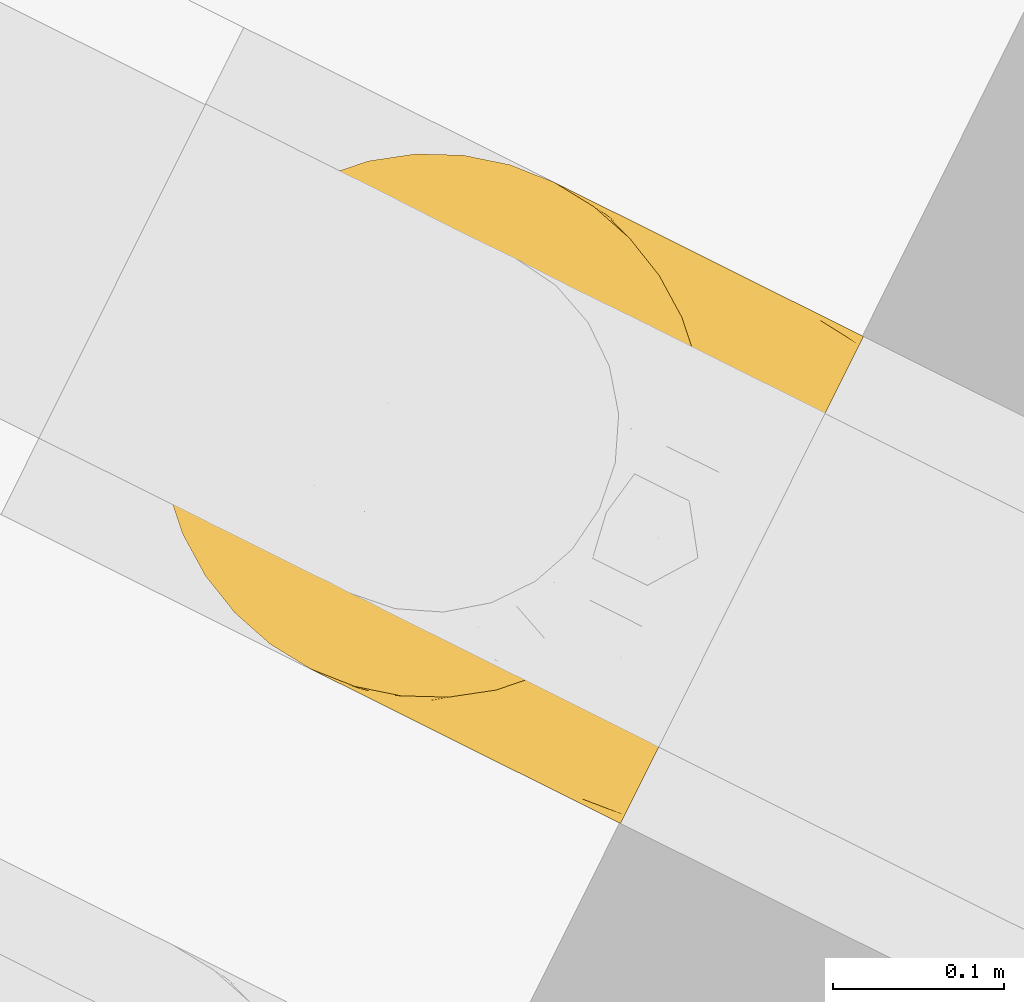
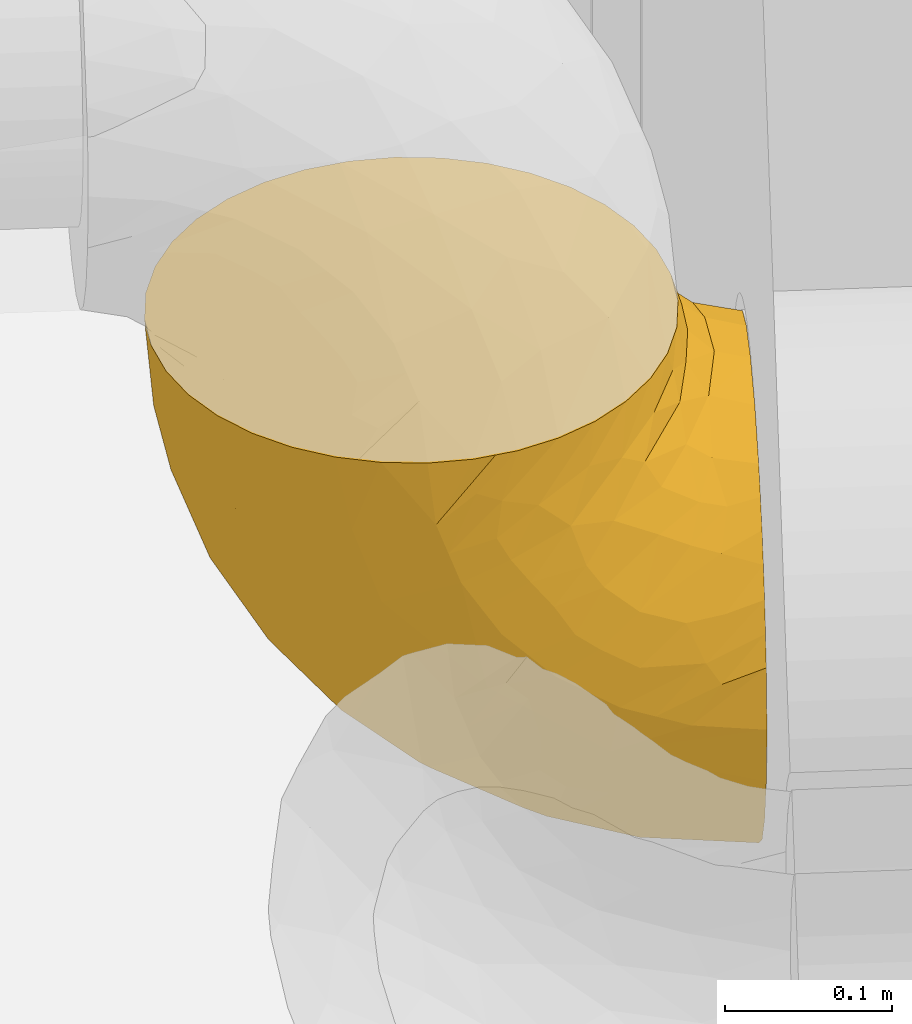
# One storey, part 46 of 91: 1 covering.
"""IFC2X3 building model written with IfcOpenShell, lengths in metres."""

from ifc_helpers import new_model, entity, si_unit, converted_unit, derived_unit, direction, frame, origin, place, context, subcontext, project, spatial, faceted_brep, element, save


model = new_model("IFC2X3")

# Units and contexts
model_context = context("Model", 3, precision=1e-05, world=origin(), true_north=direction((0.894925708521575, 0.446215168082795)))
context_of_model = context(None, 3, precision=1e-05, world=origin(), true_north=direction((0.894925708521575, 0.446215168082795)))
body_context = subcontext(model_context, "Body", "Model", "MODEL_VIEW")
ifc_project = project(units=[si_unit("LENGTHUNIT", "METRE"), si_unit("AREAUNIT", "SQUARE_METRE"), si_unit("VOLUMEUNIT", "CUBIC_METRE"), converted_unit("PLANEANGLEUNIT", "DEGREE", entity("IfcRatioMeasure", 0.0174532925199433), si_unit("PLANEANGLEUNIT", "RADIAN"), dimensions=[0, 0, 0, 0, 0, 0, 0]), si_unit("MASSUNIT", "GRAM", prefix="KILO"), si_unit("TIMEUNIT", "SECOND"), si_unit("FREQUENCYUNIT", "HERTZ"), si_unit("THERMODYNAMICTEMPERATUREUNIT", "DEGREE_CELSIUS"), derived_unit("THERMALTRANSMITTANCEUNIT", [(si_unit("MASSUNIT", "GRAM", prefix="KILO"), 1), (si_unit("THERMODYNAMICTEMPERATUREUNIT", "KELVIN"), -1), (si_unit("TIMEUNIT", "SECOND"), -3)]), derived_unit("VOLUMETRICFLOWRATEUNIT", [(si_unit("LENGTHUNIT", "METRE"), 3), (si_unit("TIMEUNIT", "SECOND"), -1)]), si_unit("ELECTRICCURRENTUNIT", "AMPERE"), si_unit("ELECTRICVOLTAGEUNIT", "VOLT"), si_unit("POWERUNIT", "WATT"), si_unit("FORCEUNIT", "NEWTON", prefix="KILO"), si_unit("ILLUMINANCEUNIT", "LUX"), si_unit("LUMINOUSFLUXUNIT", "LUMEN"), si_unit("LUMINOUSINTENSITYUNIT", "CANDELA"), si_unit("PRESSUREUNIT", "PASCAL")], contexts=[model_context, context_of_model])

# Site, building, storey
site_placement = place(None, frame((218.228324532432, 584.720189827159, 0.0), z_axis=(0.0, 0.0, 1.0), x_axis=(0.446215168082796, 0.894925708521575, 0.0)))
site = spatial("IfcSite", under=ifc_project, at=site_placement, Name="Default", CompositionType="ELEMENT")
building_placement = place(site_placement, origin())
building = spatial("IfcBuilding", under=site, at=building_placement, CompositionType="ELEMENT")
storey_placement = place(building_placement, origin())
storey = spatial("IfcBuildingStorey", under=building, at=storey_placement, Name="0 - Piano Terra", CompositionType="ELEMENT", Elevation=0.0)

# Covering
covering_placement = place(storey_placement, frame((-30.3033657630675, -5.00334083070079, 2.50885472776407)))
element("IfcCovering", 1, at=covering_placement, inside=storey, Name="Isolamento tubazione:Default", ObjectType="Isolamento tubazione:Default", PredefinedType="INSULATION", context=body_context, shape_type="Brep", body=[
    faceted_brep([(0.318271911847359, 0.232297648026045, 0.364145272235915), (0.311073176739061, 0.259164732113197, 0.364145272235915), (0.29931755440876, 0.284373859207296, 0.364145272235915), (0.283365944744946, 0.30715408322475, 0.364145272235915), (0.263703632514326, 0.326816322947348, 0.364145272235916), (0.240919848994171, 0.342769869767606, 0.364145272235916), (0.21571004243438, 0.354524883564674, 0.364145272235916), (0.188846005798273, 0.361722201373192, 0.364145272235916), (0.161145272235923, 0.364145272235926, 0.364145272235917), (0.133442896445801, 0.361721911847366, 0.364145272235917), (0.106575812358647, 0.354523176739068, 0.364145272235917), (0.0813666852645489, 0.342767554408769, 0.364145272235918), (0.0585864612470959, 0.326815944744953, 0.364145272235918), (0.0389242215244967, 0.307153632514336, 0.364145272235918), (0.0229706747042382, 0.284369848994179, 0.364145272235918), (0.0112156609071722, 0.259160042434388, 0.364145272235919), (0.00401834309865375, 0.232296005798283, 0.364145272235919), (0.00159527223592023, 0.204595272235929, 0.364145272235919), (0.00254231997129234, 0.193769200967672, 0.364145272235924), (0.0040186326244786, 0.176892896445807, 0.364145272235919), (0.00761800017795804, 0.163459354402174, 0.364145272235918), (0.0112173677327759, 0.150025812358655, 0.364145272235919), (0.0229729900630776, 0.124816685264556, 0.364145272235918), (0.0389245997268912, 0.102036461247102, 0.364145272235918), (0.058586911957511, 0.0823742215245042, 0.364145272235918), (0.0813706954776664, 0.0664206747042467, 0.364145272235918), (0.106580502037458, 0.0546656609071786, 0.364145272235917), (0.133444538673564, 0.0474683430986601, 0.364145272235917), (0.161145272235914, 0.0450452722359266, 0.364145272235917), (0.188847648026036, 0.0474686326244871, 0.364145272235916), (0.21571473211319, 0.0546673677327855, 0.364145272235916), (0.240923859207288, 0.066422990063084, 0.364145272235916), (0.263704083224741, 0.0823745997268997, 0.364145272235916), (0.28336632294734, 0.102036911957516, 0.364145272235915), (0.299319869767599, 0.124820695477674, 0.364145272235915), (0.311074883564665, 0.150030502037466, 0.364145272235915), (0.318272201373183, 0.17689453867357, 0.364145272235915), (0.319748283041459, 0.193769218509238, 0.36414527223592), (0.320695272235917, 0.204595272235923, 0.364145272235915), (0.11985069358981, 0.00159527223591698, 0.315258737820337), (0.0813702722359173, 0.00159527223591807, 0.299319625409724), (0.0648483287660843, 0.00159527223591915, 0.286641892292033), (0.0483263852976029, 0.00159527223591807, 0.27396415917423), (0.0356486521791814, 0.00159527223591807, 0.25744221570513), (0.0229709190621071, 0.00159527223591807, 0.240920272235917), (0.0150013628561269, 0.00159527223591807, 0.221680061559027), (0.00703180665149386, 0.00159527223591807, 0.202439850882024), (0.00448125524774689, 0.00159527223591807, 0.183066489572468), (0.00303826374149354, 0.00159527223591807, 0.17210588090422), (0.0015952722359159, 0.00159527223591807, 0.161145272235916), (0.00703180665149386, 0.00159527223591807, 0.119850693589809), (0.0229709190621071, 0.00159527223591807, 0.0813702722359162), (0.0483263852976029, 0.00159527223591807, 0.0483263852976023), (0.0813702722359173, 0.00159527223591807, 0.0229709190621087), (0.11985069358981, 0.00159527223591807, 0.00703180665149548), (0.161145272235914, 0.00159527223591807, 0.0015952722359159), (0.202439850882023, 0.00159527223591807, 0.00703180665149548), (0.240920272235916, 0.00159527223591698, 0.0229709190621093), (0.27396415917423, 0.00159527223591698, 0.0483263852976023), (0.299319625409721, 0.00159527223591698, 0.0813702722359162), (0.315258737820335, 0.00159527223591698, 0.119850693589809), (0.320695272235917, 0.0015952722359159, 0.161145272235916), (0.319252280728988, 0.0015952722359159, 0.172105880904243), (0.31780928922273, 0.0015952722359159, 0.183066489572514), (0.315258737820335, 0.0015952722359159, 0.202439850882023), (0.307289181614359, 0.0015952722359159, 0.221680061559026), (0.299319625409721, 0.0015952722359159, 0.240920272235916), (0.286641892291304, 0.00159527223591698, 0.257442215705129), (0.27396415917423, 0.00159527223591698, 0.27396415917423), (0.240920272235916, 0.00159527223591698, 0.299319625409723), (0.202439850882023, 0.00159527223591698, 0.315258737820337), (0.161145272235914, 0.00159527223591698, 0.320695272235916), (0.201172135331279, 0.0900951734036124, 0.0178267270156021), (0.161145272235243, 0.0645514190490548, 0.00710322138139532), (0.161145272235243, 0.125594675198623, 0.0234597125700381), (0.306467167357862, 0.173037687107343, 0.1570364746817), (0.317175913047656, 0.168703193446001, 0.197037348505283), (0.312260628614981, 0.108066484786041, 0.133329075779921), (0.320695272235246, 0.128163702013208, 0.205433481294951), (0.320695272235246, 0.108918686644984, 0.193341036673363), (0.320695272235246, 0.0896736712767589, 0.181248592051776), (0.228888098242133, 0.142688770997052, 0.0466279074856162), (0.198715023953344, 0.150576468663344, 0.038547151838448), (0.19714418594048, 0.206213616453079, 0.0698536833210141), (0.265288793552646, 0.273081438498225, 0.18754088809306), (0.279139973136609, 0.221076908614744, 0.14466362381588), (0.251711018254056, 0.234774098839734, 0.124519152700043), (0.227840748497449, 0.0599626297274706, 0.0211347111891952), (0.283559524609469, 0.0515208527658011, 0.0629270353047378), (0.309327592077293, 0.215857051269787, 0.213108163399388), (0.161145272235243, 0.182870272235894, 0.0501677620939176), (0.161145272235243, 0.234637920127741, 0.086415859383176), (0.188773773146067, 0.25625245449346, 0.109488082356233), (0.161145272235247, 0.279324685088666, 0.131102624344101), (0.320695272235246, 0.199505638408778, 0.318973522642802), (0.317175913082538, 0.218772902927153, 0.270957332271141), (0.277616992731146, 0.115600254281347, 0.073672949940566), (0.296288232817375, 0.136729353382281, 0.110033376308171), (0.304299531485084, 0.0646646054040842, 0.0980689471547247), (0.222697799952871, 0.342089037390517, 0.282272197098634), (0.198695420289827, 0.327172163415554, 0.21510627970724), (0.190673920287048, 0.350066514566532, 0.274594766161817), (0.320695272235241, 0.0467670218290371, 0.166234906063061), (0.320695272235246, 0.0239518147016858, 0.163664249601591), (0.320695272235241, 0.0127735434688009, 0.162404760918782), (0.252196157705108, 0.0737158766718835, 0.0380054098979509), (0.161145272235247, 0.342280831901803, 0.24014586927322), (0.161145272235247, 0.315572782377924, 0.182870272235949), (0.320695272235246, 0.0682203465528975, 0.173741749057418), (0.301023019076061, 0.273493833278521, 0.29833714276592), (0.219562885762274, 0.250122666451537, 0.115617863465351), (0.204386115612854, 0.292585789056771, 0.158055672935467), (0.233310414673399, 0.281138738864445, 0.161450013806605), (0.282350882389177, 0.288377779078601, 0.255263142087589), (0.268310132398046, 0.316159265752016, 0.29917824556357), (0.289509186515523, 0.251447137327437, 0.202178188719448), (0.23979758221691, 0.309557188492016, 0.215828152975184), (0.161145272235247, 0.358637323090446, 0.301189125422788), (0.320695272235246, 0.203335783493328, 0.352967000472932), (0.320695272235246, 0.202076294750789, 0.341788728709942), (0.320695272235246, 0.184491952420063, 0.27606687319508), (0.320695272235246, 0.172399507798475, 0.256821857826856), (0.320695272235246, 0.160307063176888, 0.237576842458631), (0.320695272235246, 0.19199879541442, 0.297520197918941), (0.320695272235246, 0.144235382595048, 0.221505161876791), (0.234514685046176, 0.199279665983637, 0.0817891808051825), (0.267559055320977, 0.180304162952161, 0.0964337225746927), (0.255020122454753, 0.141814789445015, 0.0631976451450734), (0.193767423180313, 0.0408292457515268, 0.338594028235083), (0.317837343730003, 0.0284627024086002, 0.193308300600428), (0.302389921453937, 0.128182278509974, 0.340390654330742), (0.315096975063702, 0.0376598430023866, 0.207127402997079), (0.29037189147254, 0.0979970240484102, 0.312375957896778), (0.268216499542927, 0.0829606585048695, 0.34056846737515), (0.272627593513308, 0.0787272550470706, 0.320022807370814), (0.315587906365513, 0.0951853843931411, 0.230747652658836), (0.313218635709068, 0.107494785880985, 0.251331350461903), (0.302643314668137, 0.080495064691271, 0.261732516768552), (0.314805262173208, 0.155605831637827, 0.320598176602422), (0.242685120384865, 0.0312638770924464, 0.305346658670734), (0.267865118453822, 0.0260038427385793, 0.283356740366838), (0.269450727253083, 0.0467246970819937, 0.291124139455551), (0.296967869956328, 0.112391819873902, 0.319955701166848), (0.310493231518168, 0.123613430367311, 0.282412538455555), (0.315769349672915, 0.148232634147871, 0.291466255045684), (0.263416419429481, 0.0620352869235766, 0.310915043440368), (0.292249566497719, 0.0904636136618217, 0.295862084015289), (0.246211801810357, 0.0646338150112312, 0.338596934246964), (0.28908278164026, 0.0541637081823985, 0.270182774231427), (0.203370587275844, 0.0263992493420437, 0.321725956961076), (0.224672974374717, 0.0462280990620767, 0.329269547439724), (0.317566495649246, 0.13311650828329, 0.253989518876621), (0.318548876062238, 0.148702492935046, 0.265864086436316), (0.213089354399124, 0.0508973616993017, 0.347170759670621), (0.317379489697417, 0.168975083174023, 0.330940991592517), (0.28622547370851, 0.0698164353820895, 0.285715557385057), (0.291795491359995, 0.0207775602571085, 0.25438796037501), (0.161145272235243, 0.03922407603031, 0.342420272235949), (0.161145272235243, 0.0233202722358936, 0.326516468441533), (0.291152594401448, 0.0360215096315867, 0.259133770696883), (0.317781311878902, 0.0724405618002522, 0.206704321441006), (0.314129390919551, 0.0762577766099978, 0.22523919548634), (0.305217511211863, 0.0687110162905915, 0.247647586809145), (0.304103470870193, 0.0261891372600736, 0.234299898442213), (0.309107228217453, 0.110544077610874, 0.27105093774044), (0.308311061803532, 0.0504309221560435, 0.231479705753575), (0.0481611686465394, 0.0854589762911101, 0.330538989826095), (0.0301900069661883, 0.0913301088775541, 0.29736352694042), (0.0185577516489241, 0.117856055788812, 0.302889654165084), (0.130051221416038, 0.0421616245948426, 0.341397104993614), (0.119520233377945, 0.0292129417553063, 0.323699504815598), (0.0579185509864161, 0.0219615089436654, 0.285393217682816), (0.0377646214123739, 0.0268437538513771, 0.265485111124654), (0.0138743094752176, 0.0982324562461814, 0.26061958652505), (0.00429194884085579, 0.116013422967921, 0.23333483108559), (0.0131660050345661, 0.0770762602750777, 0.242279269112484), (0.00537209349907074, 0.142677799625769, 0.272032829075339), (0.01509706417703, 0.10861776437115, 0.275816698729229), (0.00159527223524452, 0.17239950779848, 0.256821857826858), (0.00497002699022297, 0.154525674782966, 0.28908419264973), (0.00159527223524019, 0.0127735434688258, 0.162404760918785), (0.00159527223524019, 0.0467670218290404, 0.166234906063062), (0.00159527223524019, 0.0239518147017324, 0.163664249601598), (0.0564962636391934, 0.0387154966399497, 0.290396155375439), (0.037803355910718, 0.0449983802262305, 0.272069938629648), (0.00445320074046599, 0.0284627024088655, 0.193308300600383), (0.110600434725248, 0.0511194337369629, 0.349416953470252), (0.0781104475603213, 0.0644557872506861, 0.341663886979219), (0.100177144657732, 0.0476548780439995, 0.333077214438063), (0.0143592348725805, 0.049227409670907, 0.231998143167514), (0.0184044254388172, 0.0255805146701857, 0.234630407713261), (0.0568485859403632, 0.0713370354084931, 0.320526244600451), (0.00159527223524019, 0.0682203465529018, 0.17374174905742), (0.0365446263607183, 0.0636793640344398, 0.281525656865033), (0.007193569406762, 0.0376598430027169, 0.207127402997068), (0.00159527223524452, 0.203335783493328, 0.352967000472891), (0.00159527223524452, 0.202076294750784, 0.341788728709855), (0.00159527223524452, 0.199505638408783, 0.318973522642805), (0.0326636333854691, 0.106279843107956, 0.335998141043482), (0.00538278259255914, 0.128674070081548, 0.253584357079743), (0.00159527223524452, 0.144235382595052, 0.221505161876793), (0.0136433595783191, 0.137474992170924, 0.322298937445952), (0.0807011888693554, 0.0296081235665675, 0.305254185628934), (0.00159527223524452, 0.184491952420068, 0.276066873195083), (0.00159527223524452, 0.191998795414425, 0.297520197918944), (0.0040115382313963, 0.175110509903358, 0.338929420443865), (0.00708777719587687, 0.159628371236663, 0.330875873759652), (0.00434202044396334, 0.101389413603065, 0.222190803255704), (0.00159527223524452, 0.0896736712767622, 0.181248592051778), (0.0809621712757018, 0.0449504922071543, 0.315633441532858), (0.0539826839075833, 0.0615544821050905, 0.30418600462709), (0.00468534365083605, 0.162967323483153, 0.305344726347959), (0.00426342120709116, 0.0775658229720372, 0.207669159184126), (0.00159527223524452, 0.160307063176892, 0.237576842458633), (0.00159527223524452, 0.128163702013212, 0.205433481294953), (0.00159527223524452, 0.108918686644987, 0.193341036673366), (0.00511463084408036, 0.16870319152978, 0.197037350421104), (0.133516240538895, 0.256252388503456, 0.109488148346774), (0.11790368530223, 0.292585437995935, 0.158055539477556), (0.0185835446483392, 0.0858702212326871, 0.10275453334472), (0.0446735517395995, 0.115600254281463, 0.0736729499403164), (0.0387310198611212, 0.0515208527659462, 0.0629270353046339), (0.00511463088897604, 0.0947832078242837, 0.146967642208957), (0.0539801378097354, 0.31615869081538, 0.299176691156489), (0.021265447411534, 0.273489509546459, 0.298335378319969), (0.0096024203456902, 0.23143538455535, 0.258614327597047), (0.0705791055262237, 0.261389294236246, 0.153669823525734), (0.0431505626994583, 0.22107690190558, 0.144663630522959), (0.0425043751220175, 0.261435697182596, 0.195668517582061), (0.10272672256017, 0.250122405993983, 0.11561812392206), (0.0713886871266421, 0.197311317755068, 0.0923747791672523), (0.125145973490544, 0.206213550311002, 0.0698537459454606), (0.0946001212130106, 0.0896994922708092, 0.0274722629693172), (0.0700943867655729, 0.0737158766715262, 0.0380054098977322), (0.131839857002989, 0.151012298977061, 0.0367980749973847), (0.0972173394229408, 0.204366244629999, 0.0798697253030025), (0.0934024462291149, 0.142688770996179, 0.046627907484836), (0.121118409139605, 0.0900951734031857, 0.0178267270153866), (0.0255526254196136, 0.190362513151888, 0.14784316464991), (0.00962930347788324, 0.249198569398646, 0.312211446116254), (0.067361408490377, 0.129404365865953, 0.0576493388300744), (0.0824907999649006, 0.309556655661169, 0.21582987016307), (0.0995884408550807, 0.342087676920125, 0.282274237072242), (0.123593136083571, 0.32717180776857, 0.215106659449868), (0.0129629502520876, 0.152632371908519, 0.149883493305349), (0.0397068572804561, 0.168253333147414, 0.106934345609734), (0.0399379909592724, 0.288376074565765, 0.255264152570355), (0.131613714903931, 0.350067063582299, 0.274599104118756), (0.0159523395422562, 0.209361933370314, 0.193053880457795), (0.0240614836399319, 0.253495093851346, 0.23161814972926)], [[[0, 1, 2, 3, 4, 5, 6, 7, 8, 9, 10, 11, 12, 13, 14, 15, 16, 17, 18, 19, 20, 21, 22, 23, 24, 25, 26, 27, 28, 29, 30, 31, 32, 33, 34, 35, 36, 37, 38]], [[39, 40, 41, 42, 43, 44, 45, 46, 47, 48, 49, 50, 51, 52, 53, 54, 55, 56, 57, 58, 59, 60, 61, 62, 63, 64, 65, 66, 67, 68, 69, 70, 71]], [[72, 73, 74]], [[73, 56, 55]], [[75, 76, 77]], [[76, 78, 79, 80]], [[81, 82, 83]], [[84, 85, 86]], [[87, 56, 72]], [[88, 59, 58]], [[89, 76, 75]], [[83, 82, 90]], [[91, 83, 90]], [[92, 91, 93]], [[0, 94, 95]], [[96, 97, 98]], [[99, 100, 101]], [[60, 102, 103, 104, 61]], [[58, 57, 105]], [[106, 100, 107]], [[98, 60, 59]], [[77, 80, 108, 102]], [[2, 1, 109]], [[102, 60, 77]], [[110, 111, 112]], [[89, 95, 76]], [[76, 80, 77]], [[91, 92, 83]], [[109, 113, 114]], [[115, 109, 89]], [[111, 107, 100]], [[109, 0, 95]], [[5, 99, 6]], [[105, 96, 88]], [[7, 6, 101]], [[99, 5, 114]], [[99, 114, 116]], [[99, 101, 6]], [[82, 81, 72]], [[4, 114, 5]], [[113, 116, 114]], [[117, 8, 7]], [[117, 101, 106]], [[114, 3, 2]], [[0, 38, 118, 119, 94]], [[95, 120, 121, 122]], [[110, 112, 86]], [[85, 84, 115]], [[85, 75, 97]], [[95, 94, 123, 120]], [[116, 112, 111]], [[76, 95, 122]], [[56, 73, 72]], [[76, 122, 124, 78]], [[99, 116, 100]], [[3, 114, 4]], [[2, 109, 114]], [[81, 105, 87]], [[125, 83, 110]], [[92, 111, 110]], [[0, 109, 1]], [[125, 126, 127]], [[89, 109, 95]], [[97, 75, 77]], [[115, 75, 85]], [[98, 97, 77]], [[97, 96, 126]], [[93, 107, 111]], [[83, 92, 110]], [[111, 92, 93]], [[116, 111, 100]], [[60, 98, 77]], [[98, 59, 88]], [[87, 105, 57]], [[105, 81, 127]], [[84, 112, 116]], [[112, 84, 86]], [[116, 113, 84]], [[115, 84, 113]], [[126, 86, 85]], [[125, 110, 86]], [[97, 126, 85]], [[127, 126, 96]], [[126, 125, 86]], [[83, 125, 81]], [[109, 115, 113]], [[75, 115, 89]], [[105, 127, 96]], [[125, 127, 81]], [[106, 101, 100]], [[7, 101, 117]], [[105, 88, 58]], [[98, 88, 96]], [[72, 74, 82]], [[90, 82, 74]], [[56, 87, 57]], [[81, 87, 72]], [[104, 103, 102, 64, 63, 62, 61]], [[29, 28, 128]], [[64, 129, 65]], [[130, 34, 33]], [[66, 65, 131]], [[102, 129, 64]], [[132, 133, 134]], [[135, 136, 137]], [[130, 138, 34]], [[139, 140, 141]], [[142, 143, 144]], [[134, 145, 146]], [[147, 31, 30]], [[141, 140, 148]], [[149, 71, 70]], [[70, 69, 139]], [[142, 32, 133]], [[134, 133, 147]], [[150, 128, 149]], [[136, 124, 151]], [[151, 122, 152]], [[147, 153, 150]], [[142, 33, 32]], [[30, 153, 147]], [[94, 35, 154]], [[138, 123, 154]], [[119, 118, 38, 37, 36, 94]], [[149, 70, 139]], [[145, 155, 146]], [[94, 36, 35]], [[156, 68, 67]], [[138, 130, 144]], [[157, 128, 28]], [[150, 153, 128]], [[154, 34, 138]], [[138, 120, 123]], [[149, 128, 158]], [[31, 133, 32]], [[31, 147, 133]], [[30, 29, 153]], [[145, 147, 150]], [[159, 148, 140]], [[144, 120, 138]], [[160, 131, 80]], [[161, 135, 162]], [[108, 131, 129]], [[80, 131, 108]], [[160, 163, 131]], [[150, 139, 145]], [[155, 141, 148]], [[142, 132, 143]], [[152, 144, 143]], [[108, 129, 102]], [[131, 65, 129]], [[29, 128, 153]], [[158, 128, 157]], [[149, 158, 71]], [[139, 150, 149]], [[164, 136, 151]], [[144, 152, 121]], [[164, 155, 137]], [[135, 78, 136]], [[145, 134, 147]], [[132, 134, 146]], [[143, 132, 146]], [[133, 132, 142]], [[33, 142, 130]], [[144, 130, 142]], [[141, 145, 139]], [[137, 155, 148]], [[137, 162, 135]], [[137, 136, 164]], [[162, 137, 148]], [[159, 162, 148]], [[160, 79, 161]], [[79, 78, 135]], [[161, 162, 165]], [[160, 161, 165]], [[79, 135, 161]], [[160, 165, 163]], [[79, 160, 80]], [[145, 141, 155]], [[140, 139, 69]], [[69, 68, 140]], [[159, 165, 162]], [[140, 68, 159]], [[67, 66, 163]], [[156, 159, 68]], [[131, 163, 66]], [[156, 165, 159]], [[67, 163, 156]], [[165, 156, 163]], [[121, 152, 122]], [[121, 120, 144]], [[151, 152, 143]], [[164, 151, 143]], [[143, 146, 164]], [[124, 136, 78]], [[124, 122, 151]], [[164, 146, 155]], [[94, 154, 123]], [[34, 154, 35]], [[24, 166, 25]], [[167, 166, 168]], [[158, 169, 170]], [[41, 171, 172]], [[158, 157, 169]], [[173, 174, 175]], [[168, 176, 177]], [[170, 71, 158]], [[178, 176, 179]], [[171, 41, 40]], [[180, 49, 48, 47, 46, 181, 182]], [[171, 183, 184]], [[46, 45, 185]], [[186, 187, 188]], [[172, 42, 41]], [[189, 190, 172]], [[191, 188, 187]], [[185, 192, 181]], [[191, 187, 166]], [[184, 183, 193]], [[27, 26, 186]], [[194, 45, 44]], [[18, 17, 195, 196, 197, 19]], [[187, 26, 25]], [[166, 187, 25]], [[24, 198, 166]], [[199, 200, 174]], [[23, 22, 201]], [[23, 198, 24]], [[186, 169, 27]], [[40, 39, 202]], [[203, 178, 179]], [[201, 168, 198]], [[204, 205, 197]], [[204, 206, 205]], [[175, 184, 193]], [[205, 20, 197]], [[174, 207, 175]], [[194, 208, 192]], [[71, 170, 39]], [[183, 209, 210]], [[166, 198, 168]], [[169, 28, 27]], [[167, 210, 191]], [[201, 198, 23]], [[203, 179, 211]], [[21, 206, 22]], [[185, 181, 46]], [[189, 194, 190]], [[194, 189, 212]], [[187, 186, 26]], [[169, 186, 188]], [[169, 188, 170]], [[169, 157, 28]], [[209, 170, 188]], [[39, 170, 202]], [[45, 194, 185]], [[192, 185, 194]], [[211, 204, 203]], [[201, 22, 206]], [[177, 176, 199]], [[193, 167, 173]], [[199, 176, 213]], [[213, 176, 178]], [[179, 168, 201]], [[200, 214, 174]], [[177, 199, 173]], [[199, 213, 200]], [[168, 179, 176]], [[179, 201, 211]], [[201, 206, 211]], [[204, 211, 206]], [[212, 175, 207]], [[199, 174, 173]], [[207, 174, 214]], [[172, 175, 189]], [[214, 215, 207]], [[208, 212, 215]], [[207, 215, 212]], [[194, 212, 208]], [[212, 189, 175]], [[167, 191, 166]], [[191, 210, 209]], [[20, 205, 21]], [[20, 19, 197]], [[206, 21, 205]], [[202, 183, 171]], [[202, 171, 40]], [[171, 184, 172]], [[175, 172, 184]], [[43, 172, 190]], [[43, 190, 44]], [[42, 172, 43]], [[194, 44, 190]], [[209, 183, 202]], [[193, 183, 210]], [[167, 193, 210]], [[175, 193, 173]], [[170, 209, 202]], [[191, 209, 188]], [[173, 167, 177]], [[168, 177, 167]], [[216, 208, 215, 214]], [[93, 217, 218]], [[219, 220, 221]], [[222, 49, 180, 182, 181]], [[222, 208, 216]], [[223, 224, 14]], [[203, 225, 216]], [[226, 227, 228]], [[14, 224, 15]], [[216, 214, 200, 213]], [[229, 230, 226]], [[217, 231, 229]], [[232, 53, 233]], [[90, 74, 234]], [[73, 55, 54]], [[223, 12, 11]], [[52, 51, 221]], [[235, 236, 230]], [[52, 233, 53]], [[74, 73, 237]], [[227, 238, 228]], [[236, 231, 234]], [[16, 15, 239]], [[234, 74, 237]], [[233, 240, 236]], [[231, 91, 90]], [[225, 203, 204, 197]], [[241, 242, 243]], [[222, 181, 192, 208]], [[107, 93, 218]], [[239, 197, 16]], [[16, 197, 196, 195, 17]], [[232, 54, 53]], [[244, 222, 216]], [[50, 222, 219]], [[245, 230, 240]], [[246, 224, 223]], [[243, 106, 107]], [[51, 50, 219]], [[14, 13, 223]], [[73, 54, 237]], [[11, 242, 223]], [[12, 223, 13]], [[247, 243, 242]], [[11, 10, 242]], [[243, 218, 241]], [[106, 243, 247]], [[91, 217, 93]], [[247, 9, 117]], [[49, 222, 50]], [[8, 117, 9]], [[248, 216, 225]], [[219, 222, 244]], [[242, 241, 223]], [[228, 248, 249]], [[244, 245, 219]], [[10, 9, 247]], [[244, 216, 248]], [[245, 244, 238]], [[216, 213, 178, 203]], [[241, 246, 223]], [[249, 224, 246]], [[239, 224, 225]], [[249, 225, 224]], [[238, 244, 248]], [[231, 217, 91]], [[218, 217, 229]], [[218, 229, 226]], [[107, 218, 243]], [[249, 246, 228]], [[248, 225, 249]], [[233, 52, 221]], [[232, 233, 236]], [[224, 239, 15]], [[197, 239, 225]], [[246, 241, 228]], [[231, 235, 229]], [[228, 241, 226]], [[218, 226, 241]], [[230, 236, 240]], [[227, 226, 230]], [[228, 238, 248]], [[245, 238, 227]], [[230, 245, 227]], [[219, 245, 220]], [[247, 242, 10]], [[106, 247, 117]], [[219, 221, 51]], [[233, 221, 220]], [[236, 234, 237]], [[90, 234, 231]], [[233, 220, 240]], [[240, 220, 245]], [[236, 237, 232]], [[232, 237, 54]], [[236, 235, 231]], [[230, 229, 235]]]),
])

save(model, "model.ifc")
